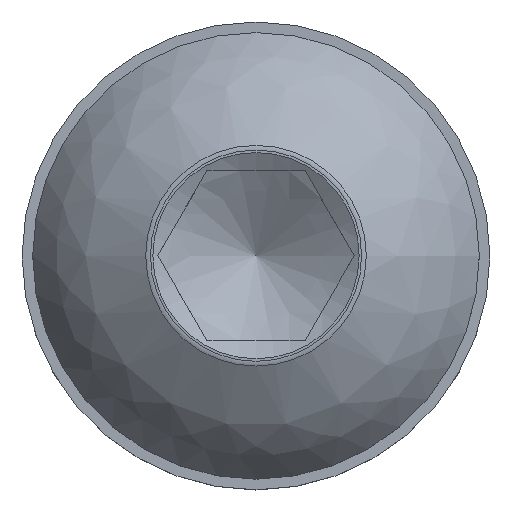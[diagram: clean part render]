
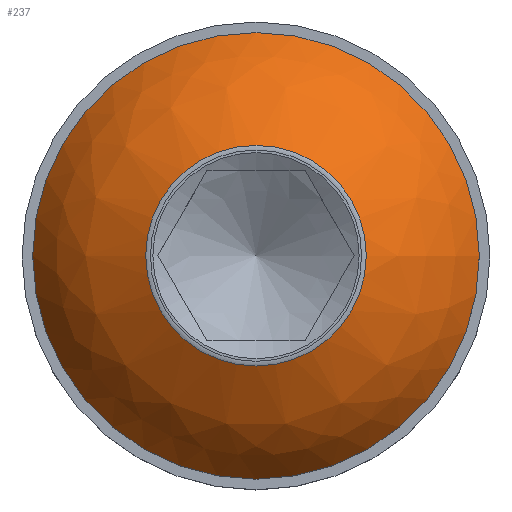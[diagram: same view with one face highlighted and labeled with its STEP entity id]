
A CAD part, top view. The second image highlights one B-rep face of the part: STEP entity #237.
In plain terms, the highlighted face is a revolution surface.
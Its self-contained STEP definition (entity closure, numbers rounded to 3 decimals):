
#58 = CYLINDRICAL_SURFACE('',#59,5.25);
#59 = AXIS2_PLACEMENT_3D('',#60,#61,#62);
#60 = CARTESIAN_POINT('',(0.,0.,5.));
#61 = DIRECTION('',(0.,0.,1.));
#62 = DIRECTION('',(1.,0.,-0.));
#130 = TOROIDAL_SURFACE('',#131,2.483,0.28);
#131 = AXIS2_PLACEMENT_3D('',#132,#133,#134);
#132 = CARTESIAN_POINT('',(0.,0.,2.92));
#133 = DIRECTION('',(0.,0.,-1.));
#134 = DIRECTION('',(-1.,0.,0.));
#180 = EDGE_CURVE('',#181,#181,#183,.T.);
#181 = VERTEX_POINT('',#182);
#182 = CARTESIAN_POINT('',(5.25,0.,0.8));
#183 = SURFACE_CURVE('',#184,(#189,#196),.PCURVE_S1.);
#184 = CIRCLE('',#185,5.25);
#185 = AXIS2_PLACEMENT_3D('',#186,#187,#188);
#186 = CARTESIAN_POINT('',(0.,0.,0.8));
#187 = DIRECTION('',(0.,0.,1.));
#188 = DIRECTION('',(1.,0.,-0.));
#189 = PCURVE('',#58,#190);
#190 = DEFINITIONAL_REPRESENTATION('',(#191),#195);
#191 = LINE('',#192,#193);
#192 = CARTESIAN_POINT('',(0.,-4.2));
#193 = VECTOR('',#194,1.);
#194 = DIRECTION('',(1.,0.));
#195 = ( GEOMETRIC_REPRESENTATION_CONTEXT(2) 
PARAMETRIC_REPRESENTATION_CONTEXT() REPRESENTATION_CONTEXT('2D SPACE',''
  ) );
#196 = PCURVE('',#197,#209);
#197 = SURFACE_OF_REVOLUTION('',#198,#206);
#198 = B_SPLINE_CURVE_WITH_KNOTS('',6,(#199,#200,#201,#202,#203,#204,
    #205),.UNSPECIFIED.,.F.,.F.,(7,7),(0.517,1.165),
  .PIECEWISE_BEZIER_KNOTS.);
#199 = CARTESIAN_POINT('',(5.25,0.,0.8));
#200 = CARTESIAN_POINT('',(4.951,0.,1.326));
#201 = CARTESIAN_POINT('',(4.584,0.,1.813));
#202 = CARTESIAN_POINT('',(4.156,0.,2.25));
#203 = CARTESIAN_POINT('',(3.674,0.,2.628));
#204 = CARTESIAN_POINT('',(3.149,0.,2.938));
#205 = CARTESIAN_POINT('',(2.594,0.,3.177));
#206 = AXIS1_PLACEMENT('',#207,#208);
#207 = CARTESIAN_POINT('',(0.,0.,-1.967));
#208 = DIRECTION('',(0.,0.,1.));
#209 = DEFINITIONAL_REPRESENTATION('',(#210),#214);
#210 = LINE('',#211,#212);
#211 = CARTESIAN_POINT('',(0.,6.8));
#212 = VECTOR('',#213,1.);
#213 = DIRECTION('',(1.,0.));
#214 = ( GEOMETRIC_REPRESENTATION_CONTEXT(2) 
PARAMETRIC_REPRESENTATION_CONTEXT() REPRESENTATION_CONTEXT('2D SPACE',''
  ) );
#237 = ADVANCED_FACE('',(#238),#197,.T.);
#238 = FACE_BOUND('',#239,.T.);
#239 = EDGE_LOOP('',(#240,#266,#290,#291,#292));
#240 = ORIENTED_EDGE('',*,*,#241,.T.);
#241 = EDGE_CURVE('',#242,#244,#246,.T.);
#242 = VERTEX_POINT('',#243);
#243 = CARTESIAN_POINT('',(-2.594,0.,3.177));
#244 = VERTEX_POINT('',#245);
#245 = CARTESIAN_POINT('',(2.594,0.,3.177));
#246 = SURFACE_CURVE('',#247,(#252,#259),.PCURVE_S1.);
#247 = CIRCLE('',#248,2.594);
#248 = AXIS2_PLACEMENT_3D('',#249,#250,#251);
#249 = CARTESIAN_POINT('',(0.,0.,3.177));
#250 = DIRECTION('',(0.,0.,-1.));
#251 = DIRECTION('',(-1.,0.,0.));
#252 = PCURVE('',#197,#253);
#253 = DEFINITIONAL_REPRESENTATION('',(#254),#258);
#254 = LINE('',#255,#256);
#255 = CARTESIAN_POINT('',(3.142,7.448));
#256 = VECTOR('',#257,1.);
#257 = DIRECTION('',(-1.,0.));
#258 = ( GEOMETRIC_REPRESENTATION_CONTEXT(2) 
PARAMETRIC_REPRESENTATION_CONTEXT() REPRESENTATION_CONTEXT('2D SPACE',''
  ) );
#259 = PCURVE('',#130,#260);
#260 = DEFINITIONAL_REPRESENTATION('',(#261),#265);
#261 = LINE('',#262,#263);
#262 = CARTESIAN_POINT('',(0.,5.118));
#263 = VECTOR('',#264,1.);
#264 = DIRECTION('',(1.,0.));
#265 = ( GEOMETRIC_REPRESENTATION_CONTEXT(2) 
PARAMETRIC_REPRESENTATION_CONTEXT() REPRESENTATION_CONTEXT('2D SPACE',''
  ) );
#266 = ORIENTED_EDGE('',*,*,#267,.F.);
#267 = EDGE_CURVE('',#181,#244,#268,.T.);
#268 = SEAM_CURVE('',#269,(#276,#283),.PCURVE_S1.);
#269 = B_SPLINE_CURVE_WITH_KNOTS('',5,(#270,#271,#272,#273,#274,#275),
  .UNSPECIFIED.,.F.,.F.,(6,6),(0.517,1.165),
  .PIECEWISE_BEZIER_KNOTS.);
#270 = CARTESIAN_POINT('',(5.25,0.,0.8));
#271 = CARTESIAN_POINT('',(4.891,0.,
    1.431));
#272 = CARTESIAN_POINT('',(4.431,0.,
    2.004));
#273 = CARTESIAN_POINT('',(3.88,0.,
    2.496));
#274 = CARTESIAN_POINT('',(3.26,0.,
    2.891));
#275 = CARTESIAN_POINT('',(2.594,0.,
    3.177));
#276 = PCURVE('',#197,#277);
#277 = DEFINITIONAL_REPRESENTATION('',(#278),#282);
#278 = LINE('',#279,#280);
#279 = CARTESIAN_POINT('',(0.,6.283));
#280 = VECTOR('',#281,1.);
#281 = DIRECTION('',(0.,1.));
#282 = ( GEOMETRIC_REPRESENTATION_CONTEXT(2) 
PARAMETRIC_REPRESENTATION_CONTEXT() REPRESENTATION_CONTEXT('2D SPACE',''
  ) );
#283 = PCURVE('',#197,#284);
#284 = DEFINITIONAL_REPRESENTATION('',(#285),#289);
#285 = LINE('',#286,#287);
#286 = CARTESIAN_POINT('',(6.283,6.283));
#287 = VECTOR('',#288,1.);
#288 = DIRECTION('',(0.,1.));
#289 = ( GEOMETRIC_REPRESENTATION_CONTEXT(2) 
PARAMETRIC_REPRESENTATION_CONTEXT() REPRESENTATION_CONTEXT('2D SPACE',''
  ) );
#290 = ORIENTED_EDGE('',*,*,#180,.T.);
#291 = ORIENTED_EDGE('',*,*,#267,.T.);
#292 = ORIENTED_EDGE('',*,*,#293,.T.);
#293 = EDGE_CURVE('',#244,#242,#294,.T.);
#294 = SURFACE_CURVE('',#295,(#300,#307),.PCURVE_S1.);
#295 = CIRCLE('',#296,2.594);
#296 = AXIS2_PLACEMENT_3D('',#297,#298,#299);
#297 = CARTESIAN_POINT('',(0.,0.,3.177));
#298 = DIRECTION('',(0.,0.,-1.));
#299 = DIRECTION('',(-1.,0.,0.));
#300 = PCURVE('',#197,#301);
#301 = DEFINITIONAL_REPRESENTATION('',(#302),#306);
#302 = LINE('',#303,#304);
#303 = CARTESIAN_POINT('',(9.425,7.448));
#304 = VECTOR('',#305,1.);
#305 = DIRECTION('',(-1.,0.));
#306 = ( GEOMETRIC_REPRESENTATION_CONTEXT(2) 
PARAMETRIC_REPRESENTATION_CONTEXT() REPRESENTATION_CONTEXT('2D SPACE',''
  ) );
#307 = PCURVE('',#130,#308);
#308 = DEFINITIONAL_REPRESENTATION('',(#309),#313);
#309 = LINE('',#310,#311);
#310 = CARTESIAN_POINT('',(0.,5.118));
#311 = VECTOR('',#312,1.);
#312 = DIRECTION('',(1.,0.));
#313 = ( GEOMETRIC_REPRESENTATION_CONTEXT(2) 
PARAMETRIC_REPRESENTATION_CONTEXT() REPRESENTATION_CONTEXT('2D SPACE',''
  ) );
